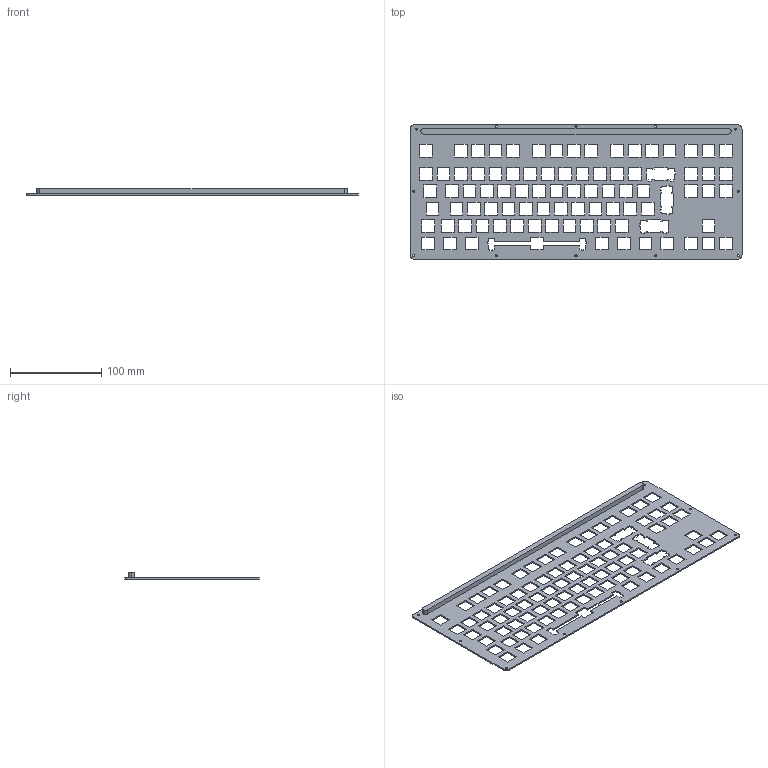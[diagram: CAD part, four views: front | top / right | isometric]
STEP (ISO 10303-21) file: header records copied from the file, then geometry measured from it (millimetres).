
FILE_DESCRIPTION(('HOOPS Exchange Step'),'2;1');
FILE_NAME('C:\Users\juanj\AppData\Local\Packages\Shapr3D.Shapr3D_j403pzjkqtqbj\TempState\export\temp_export','2024-12-14T23:59:03+01:00',('juanj'),('Shapr3D Limited'),'HOOPS Exchange 2024.6','Shapr3D','Authorized');
FILE_SCHEMA( ('AP242_MANAGED_MODEL_BASED_3D_ENGINEERING_MIM_LF {1 0 10303 442 1 1 4 }') );
Length unit declared in the file: millimetre
Products named in the file (1): Plate
Bounding box: 363.66 x 147.82 x 7.2 mm (x, y, z)
Volume: 64478.4 mm3; surface area: 84043.7 mm2
Topology: 1 solids, 1 shells, 509 faces, 1542 edges, 1036 vertices
Faces by surface type: plane 489, cylinder 20
Full cylindrical faces by diameter (mm): 2.25 x12
Entity records: 17448 total; most frequent: CARTESIAN_POINT 3089, ORIENTED_EDGE 3084, DIRECTION 2628, EDGE_CURVE 1542, VECTOR 1478, LINE 1478, VERTEX_POINT 1036, EDGE_LOOP 710
